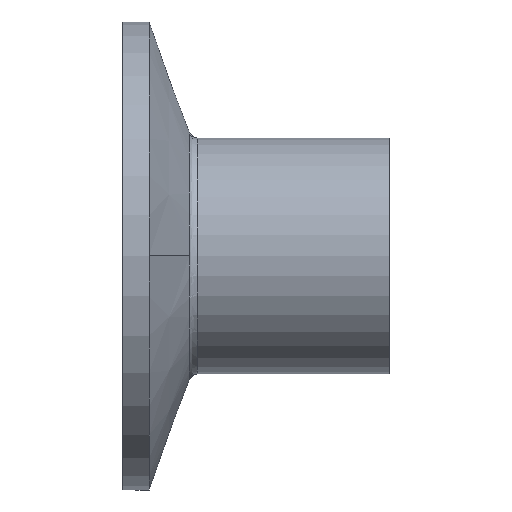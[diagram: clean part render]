
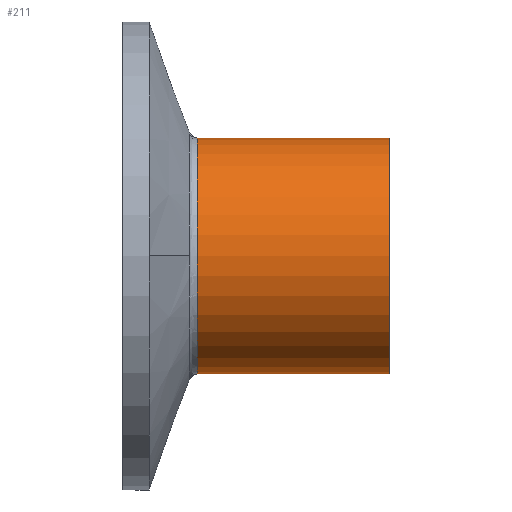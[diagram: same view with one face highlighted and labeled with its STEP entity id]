
A CAD part, top view. The second image highlights one B-rep face of the part: STEP entity #211.
In plain terms, the highlighted cylindrical face has radius 12.7 mm (diameter 25.4 mm), a partial arc.
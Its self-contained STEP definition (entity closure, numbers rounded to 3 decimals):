
#70 = VERTEX_POINT ( 'NONE', #104 ) ;
#73 = CARTESIAN_POINT ( 'NONE',  ( 0., -12.7, 0. ) ) ;
#104 = CARTESIAN_POINT ( 'NONE',  ( -20.666, -12.7, 0. ) ) ;
#132 = EDGE_CURVE ( 'NONE', #467, #1242, #968, .T. ) ;
#156 = ORIENTED_EDGE ( 'NONE', *, *, #667, .T. ) ;
#179 = EDGE_CURVE ( 'NONE', #70, #1242, #1070, .T. ) ;
#211 = ADVANCED_FACE ( 'NONE', ( #855 ), #826, .T. ) ;
#219 = DIRECTION ( 'NONE',  ( 1., 0., 0. ) ) ;
#255 = EDGE_CURVE ( 'NONE', #1199, #467, #1190, .T. ) ;
#321 = EDGE_LOOP ( 'NONE', ( #156, #782, #1332, #681 ) ) ;
#347 = DIRECTION ( 'NONE',  ( 1., 0., 0. ) ) ;
#404 = CARTESIAN_POINT ( 'NONE',  ( 45.786, 12.7, 0. ) ) ;
#414 = CARTESIAN_POINT ( 'NONE',  ( -20.666, 0., 0. ) ) ;
#463 = CARTESIAN_POINT ( 'NONE',  ( 0., 12.7, 0. ) ) ;
#467 = VERTEX_POINT ( 'NONE', #463 ) ;
#470 = DIRECTION ( 'NONE',  ( 1., 0., 0. ) ) ;
#474 = DIRECTION ( 'NONE',  ( 0., 1., 0. ) ) ;
#499 = DIRECTION ( 'NONE',  ( 1., 0., 0. ) ) ;
#580 = CIRCLE ( 'NONE', #833, 12.7 ) ;
#667 = EDGE_CURVE ( 'NONE', #1199, #70, #580, .T. ) ;
#681 = ORIENTED_EDGE ( 'NONE', *, *, #255, .F. ) ;
#687 = VECTOR ( 'NONE', #499, 1000. ) ;
#710 = VECTOR ( 'NONE', #792, 1000. ) ;
#739 = AXIS2_PLACEMENT_3D ( 'NONE', #1004, #347, #897 ) ;
#782 = ORIENTED_EDGE ( 'NONE', *, *, #179, .T. ) ;
#784 = DIRECTION ( 'NONE',  ( 0., 1., 0. ) ) ;
#792 = DIRECTION ( 'NONE',  ( 1., 0., 0. ) ) ;
#826 = CYLINDRICAL_SURFACE ( 'NONE', #1152, 12.7 ) ;
#833 = AXIS2_PLACEMENT_3D ( 'NONE', #414, #470, #474 ) ;
#855 = FACE_OUTER_BOUND ( 'NONE', #321, .T. ) ;
#859 = CARTESIAN_POINT ( 'NONE',  ( -20.666, 12.7, 0. ) ) ;
#897 = DIRECTION ( 'NONE',  ( 0., 1., 0. ) ) ;
#968 = CIRCLE ( 'NONE', #739, 12.7 ) ;
#1004 = CARTESIAN_POINT ( 'NONE',  ( 0., 0., 0. ) ) ;
#1070 = LINE ( 'NONE', #1106, #710 ) ;
#1106 = CARTESIAN_POINT ( 'NONE',  ( 45.786, -12.7, 0. ) ) ;
#1152 = AXIS2_PLACEMENT_3D ( 'NONE', #1223, #219, #784 ) ;
#1190 = LINE ( 'NONE', #404, #687 ) ;
#1199 = VERTEX_POINT ( 'NONE', #859 ) ;
#1223 = CARTESIAN_POINT ( 'NONE',  ( 45.786, 0., 0. ) ) ;
#1242 = VERTEX_POINT ( 'NONE', #73 ) ;
#1332 = ORIENTED_EDGE ( 'NONE', *, *, #132, .F. ) ;
